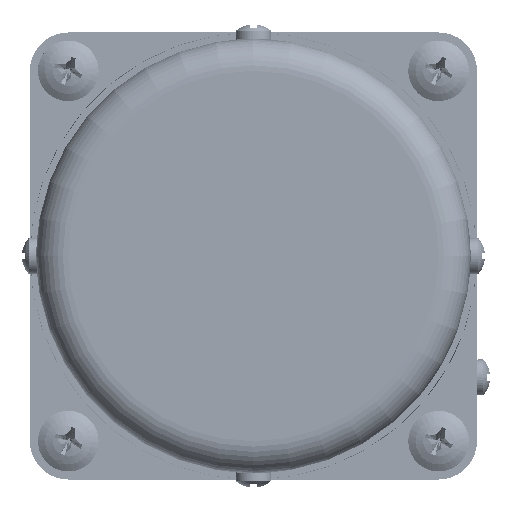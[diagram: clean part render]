
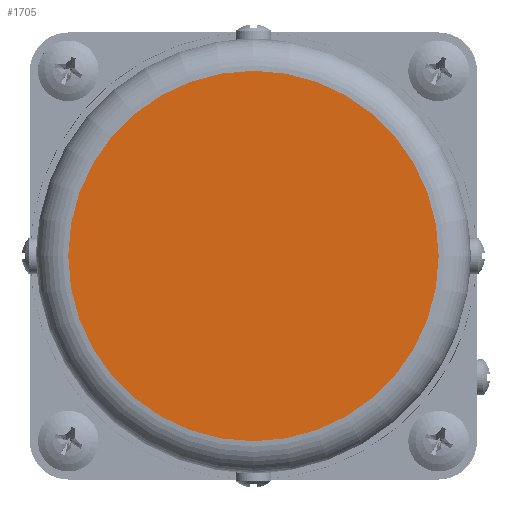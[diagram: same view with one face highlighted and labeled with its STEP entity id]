
A CAD part, left-side view. The second image highlights one B-rep face of the part: STEP entity #1705.
In plain terms, the highlighted planar face has unit normal (-1, 0, 0).
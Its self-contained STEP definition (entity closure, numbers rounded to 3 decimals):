
#913=PLANE('',#6306);
#1705=ADVANCED_FACE('',(#2105),#913,.F.);
#2105=FACE_OUTER_BOUND('',#2432,.T.);
#2432=EDGE_LOOP('',(#3240));
#3240=ORIENTED_EDGE('',*,*,#5177,.T.);
#4542=VERTEX_POINT('',#54427);
#5177=EDGE_CURVE('',#4542,#4542,#5873,.T.);
#5873=CIRCLE('',#6305,29.);
#6305=AXIS2_PLACEMENT_3D('',#54426,#7076,#7077);
#6306=AXIS2_PLACEMENT_3D('',#54428,#7078,#7079);
#7076=DIRECTION('',(-1.,0.,0.));
#7077=DIRECTION('',(0.,0.,1.));
#7078=DIRECTION('',(1.,0.,0.));
#7079=DIRECTION('',(0.,0.,1.));
#54426=CARTESIAN_POINT('',(-134.,0.,0.));
#54427=CARTESIAN_POINT('',(-134.,0.,29.));
#54428=CARTESIAN_POINT('',(-134.,0.,0.));
